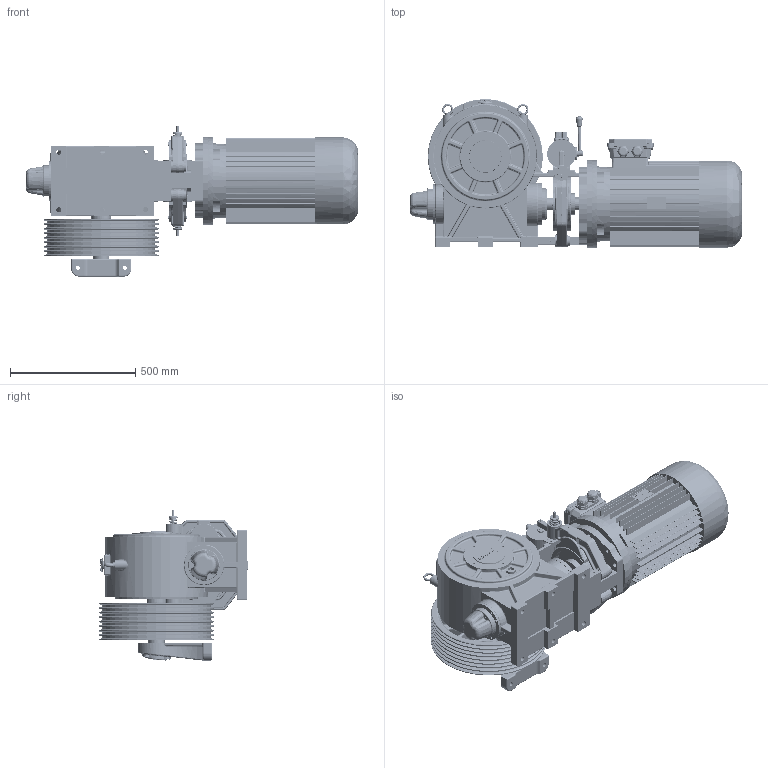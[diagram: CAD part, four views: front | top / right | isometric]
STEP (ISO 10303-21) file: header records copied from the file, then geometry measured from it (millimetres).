
FILE_DESCRIPTION (( 'STEP AP203' ), '1' );
FILE_NAME ('FC185080.STEP', '2025-06-20T11:39:00', ( '' ), ( '' ), 'SwSTEP 2.0', 'SolidWorks 2023', '' );
FILE_SCHEMA (( 'CONFIG_CONTROL_DESIGN' ));
Products named in the file (3): 460x8x12 kasnak; FC185080
Assembly tree (2 placements, depth 2):
  FC185080
    FC185080
    460x8x12 kasnak
Bounding box: 1327 x 743.88 x 676.07 mm (x, y, z)
Volume: 117756576.2 mm3; surface area: 5893078.8 mm2
Topology: 52 solids, 60 shells, 5658 faces, 13621 edges, 8162 vertices
Faces by surface type: cylinder 1714, plane 1476, bspline 1172, torus 574, cone 459, sphere 263
Entity records: 233584 total; most frequent: CARTESIAN_POINT 110409, ORIENTED_EDGE 26840, DIRECTION 24045, EDGE_CURVE 13420, AXIS2_PLACEMENT_3D 9632, VERTEX_POINT 8158, EDGE_LOOP 6234, ADVANCED_FACE 5658
